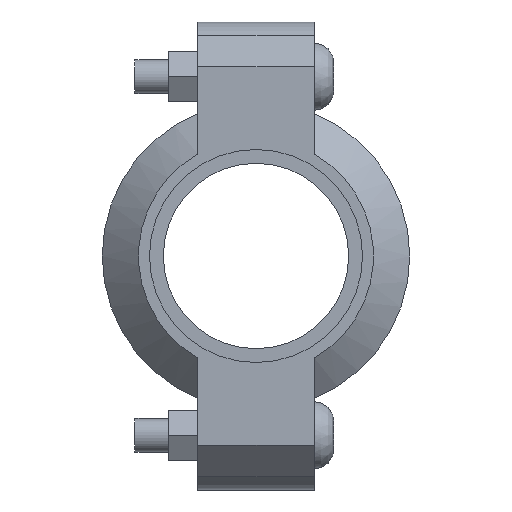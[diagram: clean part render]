
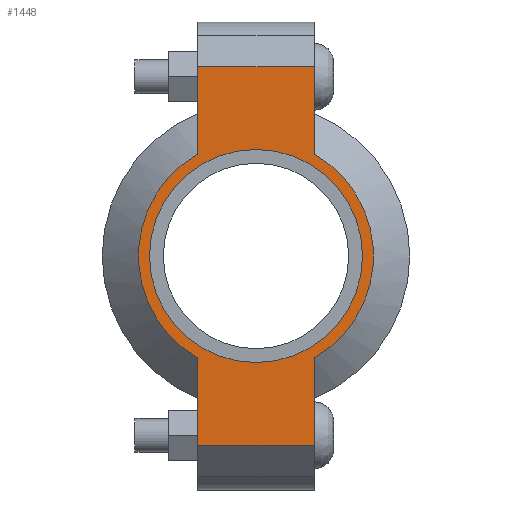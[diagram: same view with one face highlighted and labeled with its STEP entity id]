
A CAD part, left-side view. The second image highlights one B-rep face of the part: STEP entity #1448.
In plain terms, the highlighted planar face has unit normal (-1, 0, 0) as drawn and (0, 0, 1) by its records, which use the part's own axes.
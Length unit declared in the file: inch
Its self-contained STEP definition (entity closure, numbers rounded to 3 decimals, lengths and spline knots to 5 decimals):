
#128=LINE('',#2511,#219);
#136=LINE('',#2547,#227);
#143=LINE('',#2568,#234);
#152=LINE('',#2600,#243);
#153=LINE('',#2604,#244);
#154=LINE('',#2606,#245);
#219=VECTOR('',#2037,0.3937);
#227=VECTOR('',#2053,0.3937);
#234=VECTOR('',#2072,0.3937);
#243=VECTOR('',#2097,0.3937);
#244=VECTOR('',#2102,0.3937);
#245=VECTOR('',#2103,0.3937);
#297=FACE_BOUND('',#457,.T.);
#361=FACE_OUTER_BOUND('',#456,.T.);
#456=EDGE_LOOP('',(#1183,#1184,#1185,#1186,#1187,#1188,#1189,#1190));
#457=EDGE_LOOP('',(#1191));
#554=CIRCLE('',#1709,1.31);
#555=CIRCLE('',#1710,1.31);
#556=CIRCLE('',#1711,1.1875);
#659=VERTEX_POINT('',#2508);
#660=VERTEX_POINT('',#2510);
#671=VERTEX_POINT('',#2542);
#672=VERTEX_POINT('',#2546);
#679=VERTEX_POINT('',#2565);
#680=VERTEX_POINT('',#2567);
#690=VERTEX_POINT('',#2603);
#691=VERTEX_POINT('',#2605);
#692=VERTEX_POINT('',#2608);
#823=EDGE_CURVE('',#660,#659,#128,.T.);
#837=EDGE_CURVE('',#672,#671,#136,.T.);
#847=EDGE_CURVE('',#680,#679,#143,.T.);
#862=EDGE_CURVE('',#672,#659,#152,.T.);
#863=EDGE_CURVE('',#671,#680,#554,.T.);
#864=EDGE_CURVE('',#690,#679,#153,.T.);
#865=EDGE_CURVE('',#690,#691,#154,.T.);
#866=EDGE_CURVE('',#691,#660,#555,.T.);
#867=EDGE_CURVE('',#692,#692,#556,.T.);
#1183=ORIENTED_EDGE('',*,*,#862,.F.);
#1184=ORIENTED_EDGE('',*,*,#837,.T.);
#1185=ORIENTED_EDGE('',*,*,#863,.T.);
#1186=ORIENTED_EDGE('',*,*,#847,.T.);
#1187=ORIENTED_EDGE('',*,*,#864,.F.);
#1188=ORIENTED_EDGE('',*,*,#865,.T.);
#1189=ORIENTED_EDGE('',*,*,#866,.T.);
#1190=ORIENTED_EDGE('',*,*,#823,.T.);
#1191=ORIENTED_EDGE('',*,*,#867,.T.);
#1302=PLANE('',#1708);
#1448=ADVANCED_FACE('',(#361,#297),#1302,.T.);
#1708=AXIS2_PLACEMENT_3D('',#2601,#2098,#2099);
#1709=AXIS2_PLACEMENT_3D('',#2602,#2100,#2101);
#1710=AXIS2_PLACEMENT_3D('',#2607,#2104,#2105);
#1711=AXIS2_PLACEMENT_3D('',#2609,#2106,#2107);
#2037=DIRECTION('',(1.,0.,0.));
#2053=DIRECTION('',(-1.,0.,0.));
#2072=DIRECTION('',(-1.,0.,0.));
#2097=DIRECTION('',(0.,-1.,0.));
#2098=DIRECTION('center_axis',(0.,0.,1.));
#2099=DIRECTION('ref_axis',(-1.,0.,0.));
#2100=DIRECTION('center_axis',(0.,0.,1.));
#2101=DIRECTION('ref_axis',(1.,0.,0.));
#2102=DIRECTION('',(0.,1.,0.));
#2103=DIRECTION('',(1.,0.,0.));
#2104=DIRECTION('center_axis',(0.,0.,1.));
#2105=DIRECTION('ref_axis',(1.,0.,0.));
#2106=DIRECTION('center_axis',(0.,0.,-1.));
#2107=DIRECTION('ref_axis',(1.,0.,0.));
#2508=CARTESIAN_POINT('',(2.11,-0.65,0.94));
#2510=CARTESIAN_POINT('',(1.13737,-0.65,0.94));
#2511=CARTESIAN_POINT('',(2.61,-0.65,0.94));
#2542=CARTESIAN_POINT('',(1.13737,0.65,0.94));
#2546=CARTESIAN_POINT('',(2.11,0.65,0.94));
#2547=CARTESIAN_POINT('',(-2.61,0.65,0.94));
#2565=CARTESIAN_POINT('',(-2.11,0.65,0.94));
#2567=CARTESIAN_POINT('',(-1.13737,0.65,0.94));
#2568=CARTESIAN_POINT('',(-2.61,0.65,0.94));
#2600=CARTESIAN_POINT('',(2.11,-0.325,0.94));
#2601=CARTESIAN_POINT('Origin',(0.,0.,
0.94));
#2602=CARTESIAN_POINT('Origin',(0.,0.,0.94));
#2603=CARTESIAN_POINT('',(-2.11,-0.65,0.94));
#2604=CARTESIAN_POINT('',(-2.11,0.325,0.94));
#2605=CARTESIAN_POINT('',(-1.13737,-0.65,0.94));
#2606=CARTESIAN_POINT('',(2.61,-0.65,0.94));
#2607=CARTESIAN_POINT('Origin',(0.,0.,0.94));
#2608=CARTESIAN_POINT('',(-1.1875,0.,0.94));
#2609=CARTESIAN_POINT('Origin',(0.,0.,0.94));
